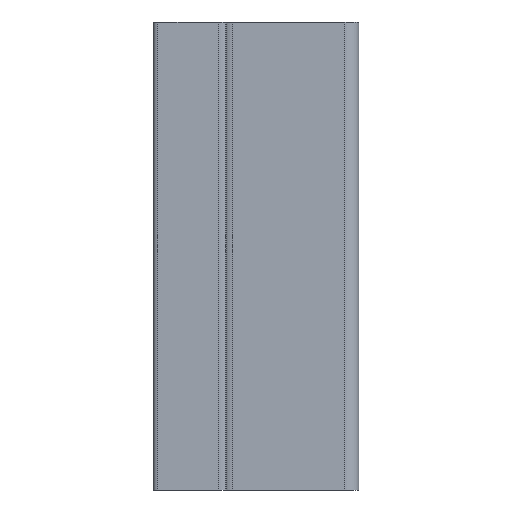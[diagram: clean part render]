
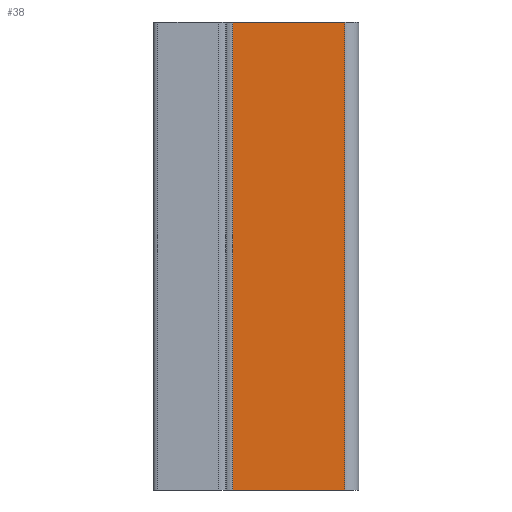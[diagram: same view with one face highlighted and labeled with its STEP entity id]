
A CAD part, left-side view. The second image highlights one B-rep face of the part: STEP entity #38.
In plain terms, the highlighted planar face has unit normal (-1, 0, 0).
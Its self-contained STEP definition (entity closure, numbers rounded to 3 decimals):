
#12 = EDGE_CURVE ( 'NONE', #1407, #70, #115, .T. ) ;
#22 = CARTESIAN_POINT ( 'NONE',  ( -15., 12., 100. ) ) ;
#26 = DIRECTION ( 'NONE',  ( 0., 0., -1. ) ) ;
#37 = VECTOR ( 'NONE', #1398, 1000. ) ;
#38 = ADVANCED_FACE ( 'NONE', ( #1018 ), #1357, .F. ) ;
#70 = VERTEX_POINT ( 'NONE', #1483 ) ;
#79 = CARTESIAN_POINT ( 'NONE',  ( -15., -12., 0. ) ) ;
#82 = LINE ( 'NONE', #736, #37 ) ;
#84 = ORIENTED_EDGE ( 'NONE', *, *, #157, .T. ) ;
#115 = LINE ( 'NONE', #22, #744 ) ;
#157 = EDGE_CURVE ( 'NONE', #70, #298, #1496, .T. ) ;
#192 = CARTESIAN_POINT ( 'NONE',  ( -15., -12., 100. ) ) ;
#298 = VERTEX_POINT ( 'NONE', #364 ) ;
#303 = DIRECTION ( 'NONE',  ( 1., 0., 0. ) ) ;
#364 = CARTESIAN_POINT ( 'NONE',  ( -15., -12., 0. ) ) ;
#594 = VERTEX_POINT ( 'NONE', #192 ) ;
#700 = AXIS2_PLACEMENT_3D ( 'NONE', #1239, #303, #701 ) ;
#701 = DIRECTION ( 'NONE',  ( 0., 0., -1. ) ) ;
#736 = CARTESIAN_POINT ( 'NONE',  ( -15., -12., 100. ) ) ;
#744 = VECTOR ( 'NONE', #26, 1000. ) ;
#755 = DIRECTION ( 'NONE',  ( 0., 0., -1. ) ) ;
#795 = EDGE_CURVE ( 'NONE', #594, #298, #895, .T. ) ;
#895 = LINE ( 'NONE', #1516, #1210 ) ;
#899 = ORIENTED_EDGE ( 'NONE', *, *, #12, .T. ) ;
#903 = CARTESIAN_POINT ( 'NONE',  ( -15., 12., 100. ) ) ;
#943 = ORIENTED_EDGE ( 'NONE', *, *, #795, .F. ) ;
#1018 = FACE_OUTER_BOUND ( 'NONE', #1568, .T. ) ;
#1063 = VECTOR ( 'NONE', #1395, 1000. ) ;
#1210 = VECTOR ( 'NONE', #755, 1000. ) ;
#1229 = ORIENTED_EDGE ( 'NONE', *, *, #1299, .F. ) ;
#1239 = CARTESIAN_POINT ( 'NONE',  ( -15., -12., 100. ) ) ;
#1299 = EDGE_CURVE ( 'NONE', #1407, #594, #82, .T. ) ;
#1357 = PLANE ( 'NONE',  #700 ) ;
#1395 = DIRECTION ( 'NONE',  ( 0., -1., 0. ) ) ;
#1398 = DIRECTION ( 'NONE',  ( 0., -1., 0. ) ) ;
#1407 = VERTEX_POINT ( 'NONE', #903 ) ;
#1483 = CARTESIAN_POINT ( 'NONE',  ( -15., 12., 0. ) ) ;
#1496 = LINE ( 'NONE', #79, #1063 ) ;
#1516 = CARTESIAN_POINT ( 'NONE',  ( -15., -12., 100. ) ) ;
#1568 = EDGE_LOOP ( 'NONE', ( #84, #943, #1229, #899 ) ) ;
